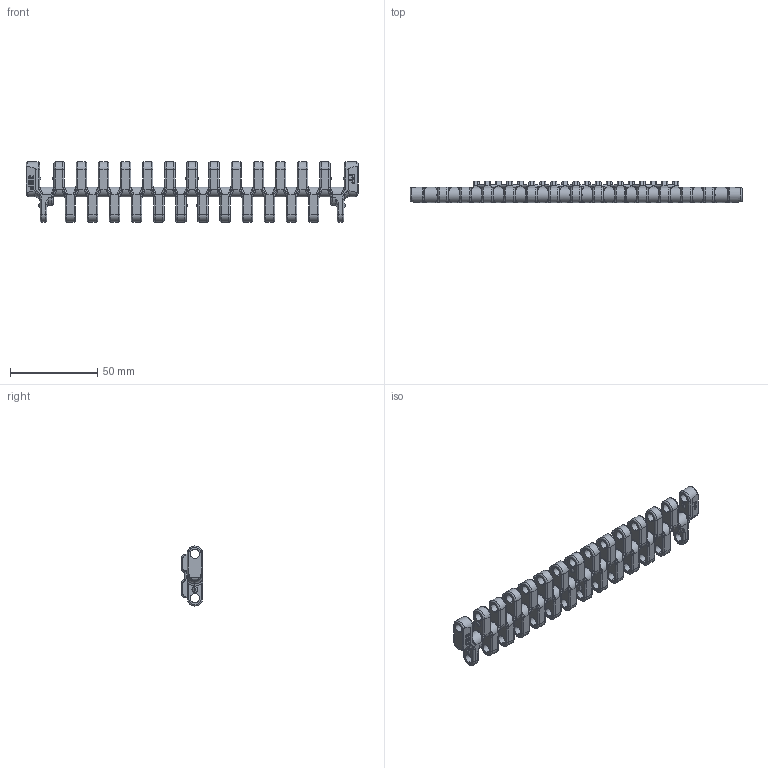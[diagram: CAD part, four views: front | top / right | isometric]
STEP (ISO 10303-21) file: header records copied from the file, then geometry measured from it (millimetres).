
FILE_DESCRIPTION((''),'2;1');
FILE_NAME('UNI_SNB_M2_20_RUBBER_TOP_K750','2009-08-27T',('mth'),(''),'PRO/ENGINEER BY PARAMETRIC TECHNOLOGY CORPORATION, 2008490','PRO/ENGINEER BY PARAMETRIC TECHNOLOGY CORPORATION, 2008490','');
FILE_SCHEMA(('AUTOMOTIVE_DESIGN { 1 0 10303 214 1 1 1 1 }'));
Products named in the file (1): UNI_SNB_M2_20_RUBBER_TOP_K750
Bounding box: 190.5 x 12.15 x 34.5 mm (x, y, z)
Volume: 26952.5 mm3; surface area: 18791.3 mm2
Topology: 1 solids, 1 shells, 1934 faces, 5045 edges, 3138 vertices
Faces by surface type: cylinder 635, plane 633, bspline 368, torus 298
Entity records: 73654 total; most frequent: CARTESIAN_POINT 28932, ORIENTED_EDGE 10090, DIRECTION 8502, EDGE_CURVE 5045, AXIS2_PLACEMENT_3D 3191, VERTEX_POINT 3138, VECTOR 2120, LINE 2120
